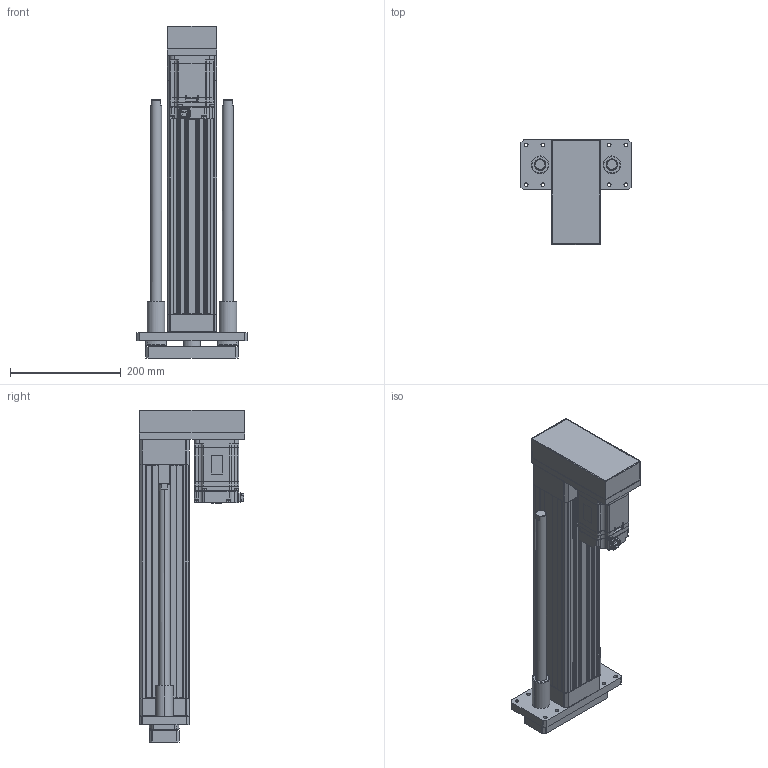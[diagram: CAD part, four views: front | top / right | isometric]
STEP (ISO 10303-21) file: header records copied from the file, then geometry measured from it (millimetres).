
FILE_DESCRIPTION (( 'STEP AP203' ), '1' );
FILE_NAME ('ANS090R-GP300-05(10)(20)-W75.STEP', '2019-03-02T08:58:10', ( 'user' ), ( '' ), 'SwSTEP 2.0', 'SolidWorks 2013', '' );
FILE_SCHEMA (( 'CONFIG_CONTROL_DESIGN' ));
Length unit declared in the file: millimetre
Products named in the file (4): ANS090 ROD ST300-G; ANS090R-GP300-05(10)(20)-W75; ANS090R GP300 VER2; SGMJV_08A_A21
Assembly tree (3 placements, depth 2):
  ANS090R-GP300-05(10)(20)-W75
    ANS090R GP300 VER2
    SGMJV_08A_A21
    ANS090 ROD ST300-G
Bounding box: 200 x 190 x 600 mm (x, y, z)
Volume: 3832862.8 mm3; surface area: 735669.2 mm2
Topology: 3 solids, 7 shells, 1393 faces, 3620 edges, 2322 vertices
Faces by surface type: plane 779, cylinder 454, cone 144, sphere 8, torus 4, bspline 4
Entity records: 43156 total; most frequent: CARTESIAN_POINT 7975, DIRECTION 7322, ORIENTED_EDGE 7200, EDGE_CURVE 3600, AXIS2_PLACEMENT_3D 2441, VECTOR 2440, LINE 2440, VERTEX_POINT 2322
